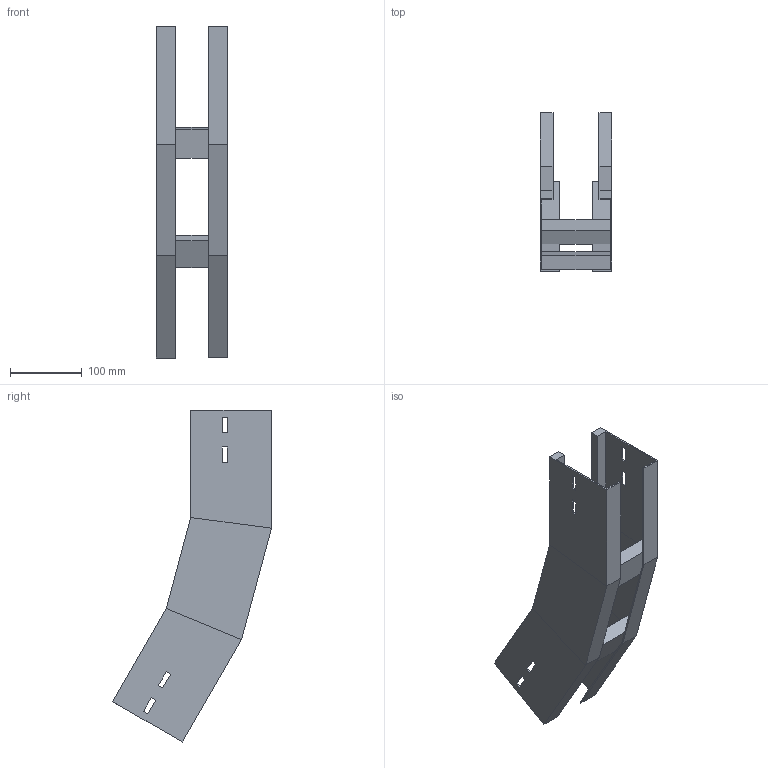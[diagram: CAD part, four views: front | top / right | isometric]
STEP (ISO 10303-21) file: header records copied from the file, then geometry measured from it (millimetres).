
FILE_DESCRIPTION (( 'STEP AP214' ), '1' );
FILE_NAME ('A2X32B5J100XX.step', '2025-03-20T09:59:39', ( '' ), ( '' ), 'SwSTEP 2.0', 'SolidWorks 2023', '' );
FILE_SCHEMA (( 'AUTOMOTIVE_DESIGN' ));
Length unit declared in the file: millimetre
Products named in the file (3): A2X32B5J100XX; LONGH.SALITA_30°_H112.5_R500; TRAVERSINO_100
Assembly tree (4 placements, depth 2):
  A2X32B5J100XX
    LONGH.SALITA_30°_H112.5_R500  x2
    TRAVERSINO_100  x2
Bounding box: 100 x 221.37 x 462.57 mm (x, y, z)
Volume: 575890.7 mm3; surface area: 314437.4 mm2
Topology: 4 solids, 4 shells, 96 faces, 232 edges, 144 vertices
Faces by surface type: plane 96
Entity records: 1472 total; most frequent: CARTESIAN_POINT 243, ORIENTED_EDGE 232, DIRECTION 226, EDGE_CURVE 116, LINE 116, VECTOR 116, VERTEX_POINT 72, EDGE_LOOP 56
